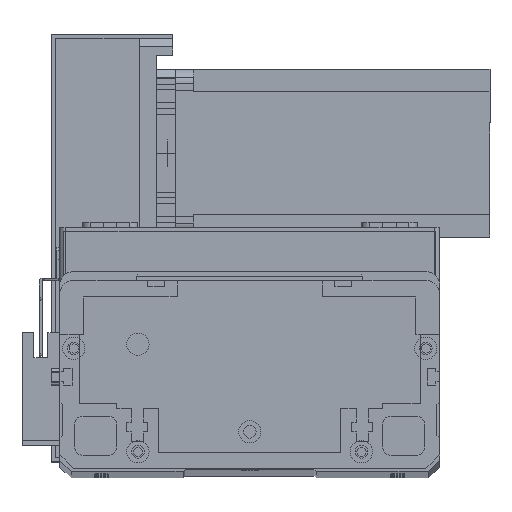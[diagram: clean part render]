
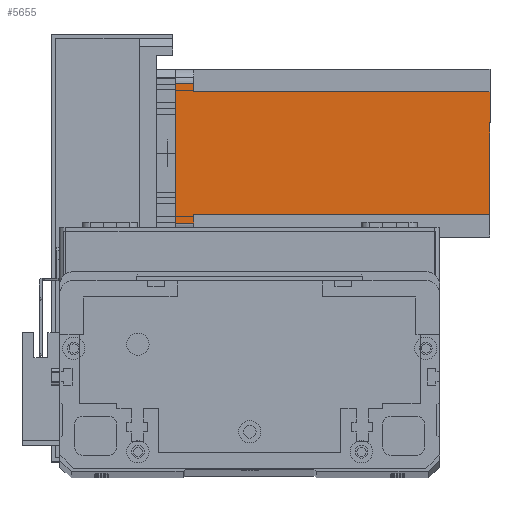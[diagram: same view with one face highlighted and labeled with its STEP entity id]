
A CAD part, top view. The second image highlights one B-rep face of the part: STEP entity #5655.
In plain terms, the highlighted planar face has unit normal (0, 0, 1) as drawn and (0, -1, 0) by its records, which use the part's own axes.
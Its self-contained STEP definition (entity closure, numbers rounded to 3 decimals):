
#737 = CARTESIAN_POINT ( 'NONE',  ( 0., 0., -112.5 ) ) ;
#892 = VERTEX_POINT ( 'NONE', #28912 ) ;
#1691 = CARTESIAN_POINT ( 'NONE',  ( 52., 0., -112.5 ) ) ;
#3061 = EDGE_CURVE ( 'NONE', #18765, #20194, #9846, .T. ) ;
#3481 = EDGE_CURVE ( 'NONE', #22129, #892, #18750, .T. ) ;
#3498 = ORIENTED_EDGE ( 'NONE', *, *, #3061, .T. ) ;
#4032 = CARTESIAN_POINT ( 'NONE',  ( 5., 0., 0. ) ) ;
#4436 = ORIENTED_EDGE ( 'NONE', *, *, #3481, .F. ) ;
#4556 = CARTESIAN_POINT ( 'NONE',  ( 55., 0., 0. ) ) ;
#5111 = DIRECTION ( 'NONE',  ( 0., 0., 1. ) ) ;
#5321 = CARTESIAN_POINT ( 'NONE',  ( 0., 0., 0. ) ) ;
#5382 = CARTESIAN_POINT ( 'NONE',  ( 55., 0., -112.5 ) ) ;
#5655 = ADVANCED_FACE ( 'NONE', ( #24070 ), #10377, .T. ) ;
#6038 = VECTOR ( 'NONE', #21258, 1000. ) ;
#6464 = VECTOR ( 'NONE', #11079, 1000. ) ;
#7815 = CARTESIAN_POINT ( 'NONE',  ( 8., 0., -6.5 ) ) ;
#8037 = CARTESIAN_POINT ( 'NONE',  ( 8., 0., -112.5 ) ) ;
#8134 = ORIENTED_EDGE ( 'NONE', *, *, #27387, .F. ) ;
#8890 = VECTOR ( 'NONE', #9987, 1000. ) ;
#9366 = EDGE_LOOP ( 'NONE', ( #28868, #3498, #10121, #11032, #4436, #8134, #15302, #17389 ) ) ;
#9368 = DIRECTION ( 'NONE',  ( -1., 0., 0. ) ) ;
#9846 = LINE ( 'NONE', #5382, #11273 ) ;
#9875 = DIRECTION ( 'NONE',  ( 0., 0., -1. ) ) ;
#9987 = DIRECTION ( 'NONE',  ( 1., 0., 0. ) ) ;
#10080 = DIRECTION ( 'NONE',  ( 0., -1., 0. ) ) ;
#10121 = ORIENTED_EDGE ( 'NONE', *, *, #20955, .F. ) ;
#10273 = CARTESIAN_POINT ( 'NONE',  ( 0., 0., -112.5 ) ) ;
#10377 = PLANE ( 'NONE',  #28977 ) ;
#10721 = VERTEX_POINT ( 'NONE', #4032 ) ;
#11032 = ORIENTED_EDGE ( 'NONE', *, *, #26385, .T. ) ;
#11079 = DIRECTION ( 'NONE',  ( 1., 0., 0. ) ) ;
#11273 = VECTOR ( 'NONE', #5111, 1000. ) ;
#13321 = EDGE_CURVE ( 'NONE', #13975, #18765, #18642, .T. ) ;
#13612 = CARTESIAN_POINT ( 'NONE',  ( 52., 0., -112.5 ) ) ;
#13661 = VERTEX_POINT ( 'NONE', #21568 ) ;
#13975 = VERTEX_POINT ( 'NONE', #27231 ) ;
#14018 = LINE ( 'NONE', #15430, #19382 ) ;
#14223 = CARTESIAN_POINT ( 'NONE',  ( 8., 0., -6.5 ) ) ;
#15302 = ORIENTED_EDGE ( 'NONE', *, *, #15338, .T. ) ;
#15338 = EDGE_CURVE ( 'NONE', #13661, #16190, #26952, .T. ) ;
#15430 = CARTESIAN_POINT ( 'NONE',  ( 5., 0., -112.5 ) ) ;
#15927 = DIRECTION ( 'NONE',  ( 0., 0., -1. ) ) ;
#15974 = VECTOR ( 'NONE', #15927, 1000. ) ;
#16190 = VERTEX_POINT ( 'NONE', #1691 ) ;
#16931 = EDGE_CURVE ( 'NONE', #13975, #16190, #22030, .T. ) ;
#17389 = ORIENTED_EDGE ( 'NONE', *, *, #16931, .F. ) ;
#18642 = LINE ( 'NONE', #20277, #6464 ) ;
#18750 = LINE ( 'NONE', #7815, #24094 ) ;
#18765 = VERTEX_POINT ( 'NONE', #24633 ) ;
#19382 = VECTOR ( 'NONE', #28842, 1000. ) ;
#20194 = VERTEX_POINT ( 'NONE', #4556 ) ;
#20277 = CARTESIAN_POINT ( 'NONE',  ( 52., 0., -6.5 ) ) ;
#20955 = EDGE_CURVE ( 'NONE', #10721, #20194, #23573, .T. ) ;
#21258 = DIRECTION ( 'NONE',  ( 1., 0., 0. ) ) ;
#21568 = CARTESIAN_POINT ( 'NONE',  ( 8., 0., -112.5 ) ) ;
#22030 = LINE ( 'NONE', #13612, #15974 ) ;
#22129 = VERTEX_POINT ( 'NONE', #14223 ) ;
#22538 = LINE ( 'NONE', #8037, #27677 ) ;
#23573 = LINE ( 'NONE', #5321, #6038 ) ;
#24070 = FACE_OUTER_BOUND ( 'NONE', #9366, .T. ) ;
#24094 = VECTOR ( 'NONE', #9368, 1000. ) ;
#24633 = CARTESIAN_POINT ( 'NONE',  ( 55., 0., -6.5 ) ) ;
#26207 = DIRECTION ( 'NONE',  ( 0., 0., 1. ) ) ;
#26385 = EDGE_CURVE ( 'NONE', #10721, #892, #14018, .T. ) ;
#26952 = LINE ( 'NONE', #737, #8890 ) ;
#27231 = CARTESIAN_POINT ( 'NONE',  ( 52., 0., -6.5 ) ) ;
#27387 = EDGE_CURVE ( 'NONE', #13661, #22129, #22538, .T. ) ;
#27677 = VECTOR ( 'NONE', #26207, 1000. ) ;
#28842 = DIRECTION ( 'NONE',  ( 0., 0., -1. ) ) ;
#28868 = ORIENTED_EDGE ( 'NONE', *, *, #13321, .T. ) ;
#28912 = CARTESIAN_POINT ( 'NONE',  ( 5., 0., -6.5 ) ) ;
#28977 = AXIS2_PLACEMENT_3D ( 'NONE', #10273, #10080, #9875 ) ;
